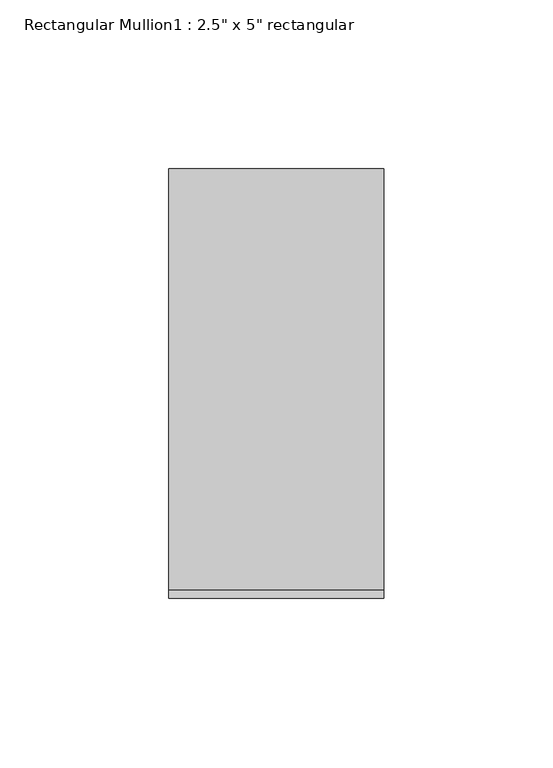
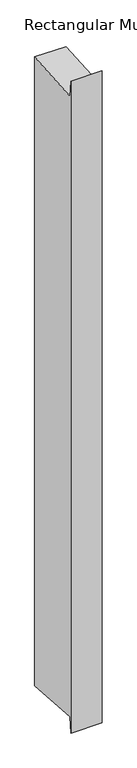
"""IFC4 building model written with IfcOpenShell, lengths in millimetres: member geometry."""

import ifcopenshell
import ifcopenshell.guid

model = None  # the IFC model being written
_history = None  # IfcOwnerHistory: only IFC2X3 demands one
_inside = {}  # id of a spatial element -> (the spatial element, [elements in it])
_under = {}  # id of a project, library or spatial element -> (it, [spatial elements below it])
_declared = {}  # id of a project -> (the project, [libraries it declares])
_typed = {}  # id of a type object -> (the type object, [elements of that type])
_made_of = {}  # id of a material, layer set ... -> (it, [elements and type objects made of it])


def new_model(schema):
    """Start an empty IFC model of exactly this schema.

    Asked for "IFC4X3", IfcOpenShell would pick the latest addendum, in which some entities
    have other attributes; the version numbers below select the first issue.
    IFC2X3 requires an IfcOwnerHistory on every rooted entity: one is made here for all.
    """
    global model, _history
    if schema == "IFC4X3":
        model = ifcopenshell.file(schema_version=(4, 3, 0, 0))
    else:
        model = ifcopenshell.file(schema=schema)
    _inside.clear()
    _under.clear()
    _declared.clear()
    _typed.clear()
    _made_of.clear()
    _history = None
    if model.schema == "IFC2X3":
        org = make("IfcOrganization", Name="unknown")
        user = make(
            "IfcPersonAndOrganization",
            ThePerson=make("IfcPerson", FamilyName="unknown"),
            TheOrganization=org,
        )
        app = make(
            "IfcApplication",
            ApplicationDeveloper=org,
            Version="unknown",
            ApplicationFullName="unknown",
            ApplicationIdentifier="unknown",
        )
        _history = make(
            "IfcOwnerHistory",
            OwningUser=user,
            OwningApplication=app,
            ChangeAction="ADDED",
            CreationDate=0,
        )
    return model


def make(cls, **values):
    """One entity of the class cls with the attributes given. An attribute that is None is left unset."""
    return model.create_entity(
        cls, **{name: value for name, value in values.items() if value is not None}
    )


def rooted(cls, **values):
    """An entity with a GlobalId (a new one), such as an element, a storey or a relation."""
    return make(cls, GlobalId=ifcopenshell.guid.new(), OwnerHistory=_history, **values)


def si_unit(unit_type, name, prefix=None):
    """IfcSIUnit, for example si_unit("LENGTHUNIT", "METRE", prefix="MILLI")."""
    return make("IfcSIUnit", UnitType=unit_type, Prefix=prefix, Name=name)


def assignment(units):
    """IfcUnitAssignment: the units of a project."""
    return None if units is None else make("IfcUnitAssignment", Units=units)


def point(xyz):
    """IfcCartesianPoint."""
    return None if xyz is None else make("IfcCartesianPoint", Coordinates=xyz)


def direction(xyz):
    """IfcDirection."""
    return None if xyz is None else make("IfcDirection", DirectionRatios=xyz)


def frame(location, z_axis=None, x_axis=None):
    """IfcAxis2Placement3D, a coordinate frame: its origin and axes. An axis left out is left unset."""
    return make(
        "IfcAxis2Placement3D",
        Location=point(location),
        Axis=direction(z_axis),
        RefDirection=direction(x_axis),
    )


def origin():
    """The frame at (0, 0, 0) with its axes left unset."""
    return frame((0.0, 0.0, 0.0))


def place(relative_to, where):
    """IfcLocalPlacement: puts the frame where relative to a parent placement (None: the world)."""
    return make(
        "IfcLocalPlacement", PlacementRelTo=relative_to, RelativePlacement=where
    )


def context(
    kind, dimensions, precision=None, world=None, true_north=None, identifier=None
):
    """IfcGeometricRepresentationContext, for example the 3D "Model" context."""
    return make(
        "IfcGeometricRepresentationContext",
        ContextIdentifier=identifier,
        ContextType=kind,
        CoordinateSpaceDimension=dimensions,
        Precision=precision,
        WorldCoordinateSystem=world,
        TrueNorth=true_north,
    )


def project(units=None, contexts=None):
    """IfcProject with its units and contexts."""
    return rooted(
        "IfcProject",
        Name="project",
        RepresentationContexts=contexts,
        UnitsInContext=assignment(units),
    )


def spatial(cls, under=None, at=None, **own):
    """A site, building, storey or space (cls), placed at a placement, below another one or the project."""
    s = rooted(cls, ObjectPlacement=at, **own)
    if under is not None:
        _under.setdefault(under.id(), (under, []))[1].append(s)
    return s


def polyline(points):
    """IfcPolyline through the points."""
    return make("IfcPolyline", Points=[point(p) for p in points])


def outline(outer, holes=None, kind="AREA"):
    """IfcArbitraryClosedProfileDef: a profile drawn as a closed curve; with holes, ...WithVoids."""
    if holes is None:
        return make("IfcArbitraryClosedProfileDef", ProfileType=kind, OuterCurve=outer)
    return make(
        "IfcArbitraryProfileDefWithVoids",
        ProfileType=kind,
        OuterCurve=outer,
        InnerCurves=holes,
    )


def extrude(swept, where, along, depth):
    """IfcExtrudedAreaSolid: the profile swept, set in the frame where, extruded along a direction by depth."""
    return make(
        "IfcExtrudedAreaSolid",
        SweptArea=swept,
        Position=where,
        ExtrudedDirection=direction(along),
        Depth=depth,
    )


def shape(context_of_items, identifier, shape_type, items):
    """IfcShapeRepresentation: the items that make up one representation, for example the "Body"."""
    return make(
        "IfcShapeRepresentation",
        ContextOfItems=context_of_items,
        RepresentationIdentifier=identifier,
        RepresentationType=shape_type,
        Items=items,
    )


def source(mapping_origin, context_of_items, identifier, shape_type, items):
    """IfcRepresentationMap: a shape defined once, which mapped items show again and again."""
    return make(
        "IfcRepresentationMap",
        MappingOrigin=mapping_origin,
        MappedRepresentation=shape(context_of_items, identifier, shape_type, items),
    )


def transform(
    local_origin,
    x_axis=None,
    y_axis=None,
    z_axis=None,
    scale=None,
    scale2=None,
    scale3=None,
    uniform=True,
):
    """IfcCartesianTransformationOperator3D, or its non-uniform kind. x_axis, y_axis, z_axis: its Axis1, 2, 3."""
    if uniform:
        return make(
            "IfcCartesianTransformationOperator3D",
            Axis1=direction(x_axis),
            Axis2=direction(y_axis),
            LocalOrigin=point(local_origin),
            Scale=scale,
            Axis3=direction(z_axis),
        )
    return make(
        "IfcCartesianTransformationOperator3DnonUniform",
        Axis1=direction(x_axis),
        Axis2=direction(y_axis),
        LocalOrigin=point(local_origin),
        Scale=scale,
        Axis3=direction(z_axis),
        Scale2=scale2,
        Scale3=scale3,
    )


def mapped(mapping_source, mapping_target):
    """IfcMappedItem: shows the shape of a source again, moved by a transform."""
    return make(
        "IfcMappedItem", MappingSource=mapping_source, MappingTarget=mapping_target
    )


def made_of(thing, what):
    """Note that an element or type object is made of a material, layer set ...; save() writes the relation."""
    if what is not None:
        _made_of.setdefault(what.id(), (what, []))[1].append(thing)
    return thing


def element(
    cls,
    number,
    at=None,
    inside=None,
    cuts=None,
    type_object=None,
    material=None,
    context=None,
    identifier="Body",
    shape_type=None,
    held_by="IfcProductDefinitionShape",
    body=None,
    shapes=None,
    **own,
):
    """One element of the class cls, such as IfcWall. Its Tag is "e" and its number.

    at: its placement. inside: the storey or other place that contains it. cuts: it is an
    opening in that element (IfcRelVoidsElement). A single representation is given by context,
    identifier, shape_type and body (its items); several are given by shapes. held_by: the class
    of the entity that holds the representations. save() writes the other relations.
    """
    e = rooted(cls, Tag="e%d" % number, ObjectPlacement=at, **own)
    if body is not None:
        shapes = [shape(context, identifier, shape_type, body)]
    if shapes is not None:
        e.Representation = make(held_by, Representations=shapes)
    if inside is not None:
        _inside.setdefault(inside.id(), (inside, []))[1].append(e)
    if cuts is not None:
        rooted(
            "IfcRelVoidsElement", RelatingBuildingElement=cuts, RelatedOpeningElement=e
        )
    if type_object is not None:
        _typed.setdefault(type_object.id(), (type_object, []))[1].append(e)
    return made_of(e, material)


def aggregate(whole, parts):
    """IfcRelAggregates: a whole, such as a stair, and the parts it consists of."""
    return rooted("IfcRelAggregates", RelatingObject=whole, RelatedObjects=parts)


def save(model, path):
    """Write the relations noted so far, then the file.

    IfcRelAggregates (storeys below a building ...), IfcRelContainedInSpatialStructure (elements
    in a storey), IfcRelDefinesByType, IfcRelAssociatesMaterial and IfcRelDeclares: one each for
    every whole, place, type object, material and project.
    """
    for whole, parts in _under.values():
        aggregate(whole, parts)
    for where, things in _inside.values():
        rooted(
            "IfcRelContainedInSpatialStructure",
            RelatedElements=things,
            RelatingStructure=where,
        )
    for kind, things in _typed.values():
        rooted("IfcRelDefinesByType", RelatedObjects=things, RelatingType=kind)
    for what, things in _made_of.values():
        rooted("IfcRelAssociatesMaterial", RelatedObjects=things, RelatingMaterial=what)
    for by, libraries in _declared.values():
        rooted("IfcRelDeclares", RelatingContext=by, RelatedDefinitions=libraries)
    model.write(path)


def member_233ab79f(model_context):
    return source(origin(), model_context, "Body", "SweptSolid", [
        extrude(outline(polyline([(-63.5, 29.4471051), (-61.0333155, -4.5163328), (63.5, 4.5282284), (63.5, -1343.9489353), (-61.0333155, -1334.904374), (-63.5, -1368.8678119), (-63.5, 29.4471051)])), frame((-63.5, 0.0, 0.0), z_axis=(1.0, 0.0, 0.0), x_axis=(0.0, 1.0, 0.0)), (0.0, 0.0, 1.0), 63.5),
    ])


if __name__ == "__main__":
    model = new_model("IFC4")
    model_context = context("Model", 3, world=origin())
    ifc_project = project(units=[si_unit("LENGTHUNIT", "METRE", prefix="MILLI")], contexts=[model_context])
    site = spatial("IfcSite", under=ifc_project)
    building = spatial("IfcBuilding", under=site)
    placement = place(None, origin())
    member_shape = member_233ab79f(model_context)
    element("IfcMember", 1, ObjectType="Rectangular Mullion1 : 2.5\" x 5\" rectangular", at=placement, inside=building, context=model_context, shape_type="MappedRepresentation", body=[
        mapped(member_shape, transform((0.0, 0.0, 0.0), x_axis=(1.0, 0.0, 0.0), y_axis=(0.0, 1.0, 0.0), z_axis=(0.0, 0.0, 1.0))),
    ])
    save(model, "model.ifc")
